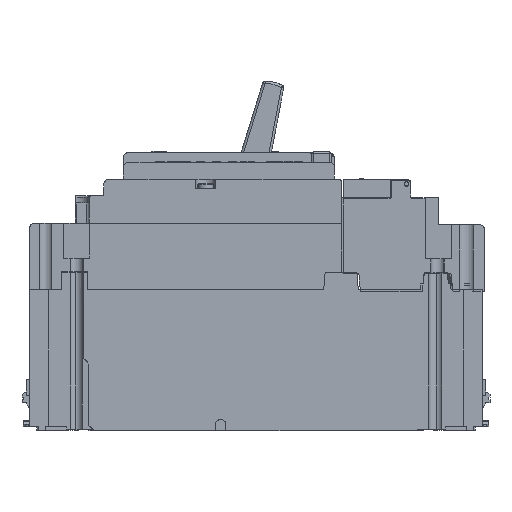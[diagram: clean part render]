
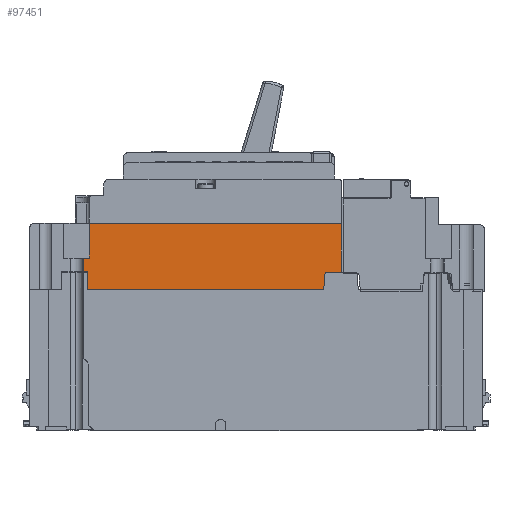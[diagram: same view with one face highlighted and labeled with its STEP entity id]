
A CAD part, left-side view. The second image highlights one B-rep face of the part: STEP entity #97451.
In plain terms, the highlighted planar face has unit normal (-1, 0, 0).
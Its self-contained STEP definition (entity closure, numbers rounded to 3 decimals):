
#2330 = ORIENTED_EDGE ( 'NONE', *, *, #47889, .F. ) ;
#2429 = ORIENTED_EDGE ( 'NONE', *, *, #48043, .F. ) ;
#2648 = ORIENTED_EDGE ( 'NONE', *, *, #47858, .T. ) ;
#2862 = ORIENTED_EDGE ( 'NONE', *, *, #47687, .T. ) ;
#2865 = ORIENTED_EDGE ( 'NONE', *, *, #47855, .F. ) ;
#2873 = ORIENTED_EDGE ( 'NONE', *, *, #47865, .F. ) ;
#2880 = ORIENTED_EDGE ( 'NONE', *, *, #47875, .F. ) ;
#2882 = ORIENTED_EDGE ( 'NONE', *, *, #47645, .F. ) ;
#2886 = ORIENTED_EDGE ( 'NONE', *, *, #47821, .T. ) ;
#2919 = ORIENTED_EDGE ( 'NONE', *, *, #47672, .T. ) ;
#13776 = CARTESIAN_POINT ( 'NONE',  ( -49.882, -27.724, 72. ) ) ;
#13792 = PLANE ( 'NONE',  #145365 ) ;
#13795 = DIRECTION ( 'NONE',  ( -1., 0., 0. ) ) ;
#13797 = DIRECTION ( 'NONE',  ( 0., 1., 0. ) ) ;
#36524 = CARTESIAN_POINT ( 'NONE',  ( -49.882, -30.024, 72. ) ) ;
#37628 = CARTESIAN_POINT ( 'NONE',  ( -49.882, -24.024, 49. ) ) ;
#38150 = CARTESIAN_POINT ( 'NONE',  ( -49.882, 59.476, 60. ) ) ;
#44182 = VERTEX_POINT ( 'NONE', #38150 ) ;
#44211 = VERTEX_POINT ( 'NONE', #37628 ) ;
#44224 = VERTEX_POINT ( 'NONE', #36524 ) ;
#44563 = VERTEX_POINT ( 'NONE', #170351 ) ;
#44604 = VERTEX_POINT ( 'NONE', #170072 ) ;
#45266 = VERTEX_POINT ( 'NONE', #156871 ) ;
#45269 = VERTEX_POINT ( 'NONE', #156874 ) ;
#45453 = VERTEX_POINT ( 'NONE', #108800 ) ;
#45539 = VERTEX_POINT ( 'NONE', #62862 ) ;
#45561 = VERTEX_POINT ( 'NONE', #63067 ) ;
#47645 = EDGE_CURVE ( 'NONE', #44211, #45269, #161381, .T. ) ;
#47672 = EDGE_CURVE ( 'NONE', #45453, #45269, #161799, .T. ) ;
#47687 = EDGE_CURVE ( 'NONE', #44563, #45453, #161636, .T. ) ;
#47821 = EDGE_CURVE ( 'NONE', #44182, #44563, #161347, .T. ) ;
#47855 = EDGE_CURVE ( 'NONE', #45266, #44211, #161442, .T. ) ;
#47858 = EDGE_CURVE ( 'NONE', #44224, #44604, #161441, .T. ) ;
#47865 = EDGE_CURVE ( 'NONE', #45561, #45266, #161356, .T. ) ;
#47875 = EDGE_CURVE ( 'NONE', #44224, #45561, #161345, .T. ) ;
#47889 = EDGE_CURVE ( 'NONE', #45539, #44604, #161264, .T. ) ;
#48043 = EDGE_CURVE ( 'NONE', #44182, #45539, #161798, .T. ) ;
#62862 = CARTESIAN_POINT ( 'NONE',  ( -49.882, 57.276, 60. ) ) ;
#63067 = CARTESIAN_POINT ( 'NONE',  ( -49.882, -30.024, 55. ) ) ;
#78231 = DIRECTION ( 'NONE',  ( 0., 0., -1. ) ) ;
#78342 = DIRECTION ( 'NONE',  ( 0., 0., 1. ) ) ;
#78352 = CARTESIAN_POINT ( 'NONE',  ( -49.882, -24.524, 55. ) ) ;
#78398 = CARTESIAN_POINT ( 'NONE',  ( -49.882, -30.024, 55. ) ) ;
#78405 = DIRECTION ( 'NONE',  ( 0., 1., 0. ) ) ;
#78431 = DIRECTION ( 'NONE',  ( 0., 0.083, -0.997 ) ) ;
#78455 = DIRECTION ( 'NONE',  ( 0., 1., 0. ) ) ;
#78459 = CARTESIAN_POINT ( 'NONE',  ( -49.882, -30.024, 72. ) ) ;
#78533 = CARTESIAN_POINT ( 'NONE',  ( -49.882, 57.276, 38.606 ) ) ;
#78672 = CARTESIAN_POINT ( 'NONE',  ( -49.882, -27.724, 72. ) ) ;
#97451 = ADVANCED_FACE ( 'NONE', ( #106283 ), #13792, .T. ) ;
#101606 = EDGE_LOOP ( 'NONE', ( #2865, #2873, #2880, #2648, #2330, #2429, #2886, #2862, #2919, #2882 ) ) ;
#106283 = FACE_OUTER_BOUND ( 'NONE', #101606, .T. ) ;
#108800 = CARTESIAN_POINT ( 'NONE',  ( -49.882, 57.876, 55.3 ) ) ;
#126856 = DIRECTION ( 'NONE',  ( 0., 0., -1. ) ) ;
#126866 = DIRECTION ( 'NONE',  ( 0., 1., 0. ) ) ;
#126872 = CARTESIAN_POINT ( 'NONE',  ( -49.882, -27.724, 49. ) ) ;
#126987 = DIRECTION ( 'NONE',  ( 0., -1., 0. ) ) ;
#127005 = CARTESIAN_POINT ( 'NONE',  ( -49.882, 57.876, 131.594 ) ) ;
#127018 = CARTESIAN_POINT ( 'NONE',  ( -49.882, 57.876, 55.3 ) ) ;
#127782 = CARTESIAN_POINT ( 'NONE',  ( -49.882, 59.476, 72. ) ) ;
#127806 = DIRECTION ( 'NONE',  ( 0., 0., -1. ) ) ;
#145365 = AXIS2_PLACEMENT_3D ( 'NONE', #13776, #13795, #13797 ) ;
#156871 = CARTESIAN_POINT ( 'NONE',  ( -49.882, -24.524, 55. ) ) ;
#156874 = CARTESIAN_POINT ( 'NONE',  ( -49.882, 57.876, 49. ) ) ;
#161264 = LINE ( 'NONE', #78533, #161355 ) ;
#161345 = LINE ( 'NONE', #78459, #161352 ) ;
#161347 = LINE ( 'NONE', #127782, #161806 ) ;
#161350 = VECTOR ( 'NONE', #78431, 1000. ) ;
#161352 = VECTOR ( 'NONE', #78231, 1000. ) ;
#161353 = VECTOR ( 'NONE', #78455, 1000. ) ;
#161355 = VECTOR ( 'NONE', #78342, 1000. ) ;
#161356 = LINE ( 'NONE', #78398, #161353 ) ;
#161381 = LINE ( 'NONE', #126872, #161455 ) ;
#161441 = LINE ( 'NONE', #78672, #161540 ) ;
#161442 = LINE ( 'NONE', #78352, #161350 ) ;
#161455 = VECTOR ( 'NONE', #126866, 1000. ) ;
#161540 = VECTOR ( 'NONE', #78405, 1000. ) ;
#161610 = VECTOR ( 'NONE', #126987, 1000. ) ;
#161612 = VECTOR ( 'NONE', #169107, 1000. ) ;
#161636 = LINE ( 'NONE', #127018, #161610 ) ;
#161642 = VECTOR ( 'NONE', #126856, 1000. ) ;
#161798 = LINE ( 'NONE', #169105, #161612 ) ;
#161799 = LINE ( 'NONE', #127005, #161642 ) ;
#161806 = VECTOR ( 'NONE', #127806, 1000. ) ;
#169105 = CARTESIAN_POINT ( 'NONE',  ( -49.882, 66.276, 60. ) ) ;
#169107 = DIRECTION ( 'NONE',  ( 0., -1., 0. ) ) ;
#170072 = CARTESIAN_POINT ( 'NONE',  ( -49.882, 57.276, 72. ) ) ;
#170351 = CARTESIAN_POINT ( 'NONE',  ( -49.882, 59.476, 55.3 ) ) ;
